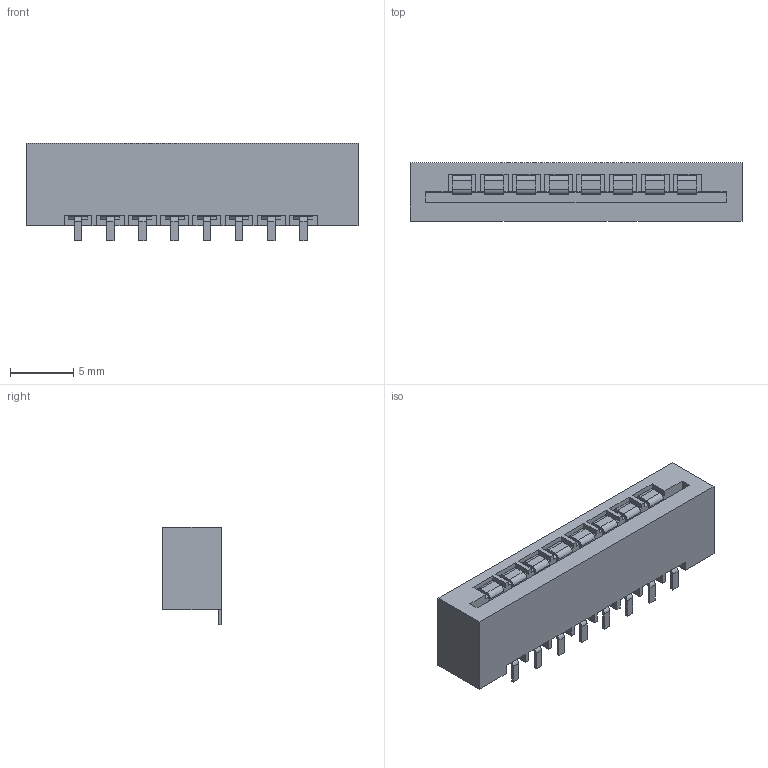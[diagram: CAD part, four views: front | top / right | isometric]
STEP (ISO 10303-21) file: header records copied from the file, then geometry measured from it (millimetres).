
FILE_DESCRIPTION (( 'STEP AP214' ), '1' );
FILE_NAME ('FB-8.STEP', '2011-05-17T10:21:18', ( 'vpeshkov' ), ( 'licard' ), 'SwSTEP 2.0', 'SolidWorks 2009', '' );
FILE_SCHEMA (( 'AUTOMOTIVE_DESIGN' ));
Length unit declared in the file: millimetre
Products named in the file (1): FB-8
Bounding box: 26.18 x 4.6 x 7.7 mm (x, y, z)
Volume: 631.1 mm3; surface area: 1095.5 mm2
Topology: 1 solids, 1 shells, 275 faces, 816 edges, 544 vertices
Faces by surface type: plane 211, cylinder 64
Entity records: 11404 total; most frequent: CARTESIAN_POINT 1636, ORIENTED_EDGE 1632, DIRECTION 1496, EDGE_CURVE 816, VECTOR 688, LINE 688, VERTEX_POINT 544, AXIS2_PLACEMENT_3D 404
